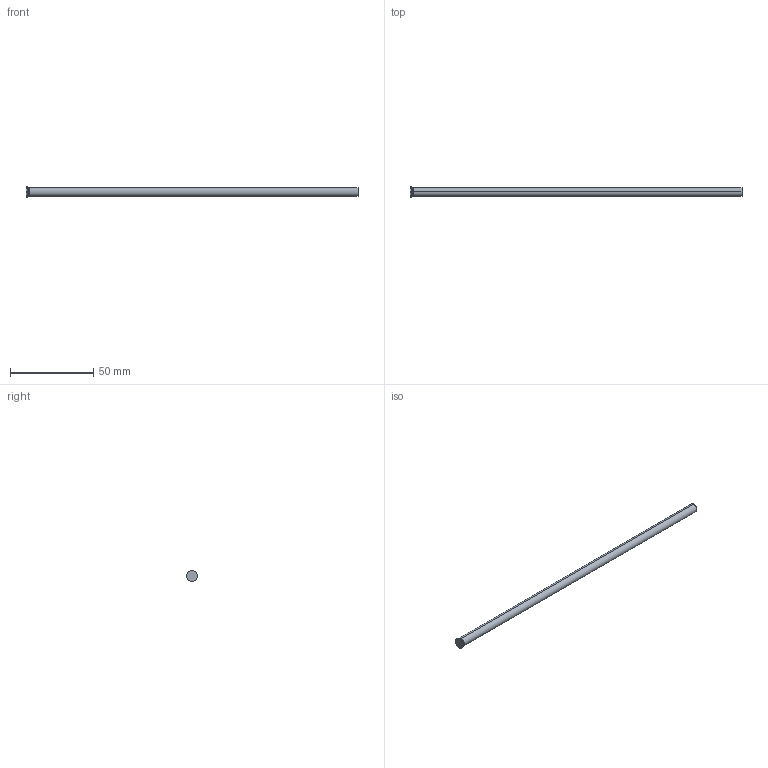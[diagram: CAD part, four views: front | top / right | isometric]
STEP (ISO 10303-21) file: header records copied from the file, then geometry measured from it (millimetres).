
FILE_DESCRIPTION (( 'STEP AP214' ), '1' );
FILE_NAME ('D-5,4x200.STEP', '2020-06-08T16:56:17', ( 'August' ), ( '' ), 'SwSTEP 2.0', 'SolidWorks 2018', '' );
FILE_SCHEMA (( 'AUTOMOTIVE_DESIGN' ));
Length unit declared in the file: millimetre
Products named in the file (1): D-5,4x200
Bounding box: 200 x 6.5 x 6.5 mm (x, y, z)
Volume: 4591.8 mm3; surface area: 3455.4 mm2
Topology: 1 solids, 1 shells, 10 faces, 18 edges, 10 vertices
Faces by surface type: cylinder 4, torus 2, cone 2, plane 2
Entity records: 280 total; most frequent: DIRECTION 52, CARTESIAN_POINT 39, ORIENTED_EDGE 36, AXIS2_PLACEMENT_3D 23, EDGE_CURVE 18, CIRCLE 12, VERTEX_POINT 10, ADVANCED_FACE 10
